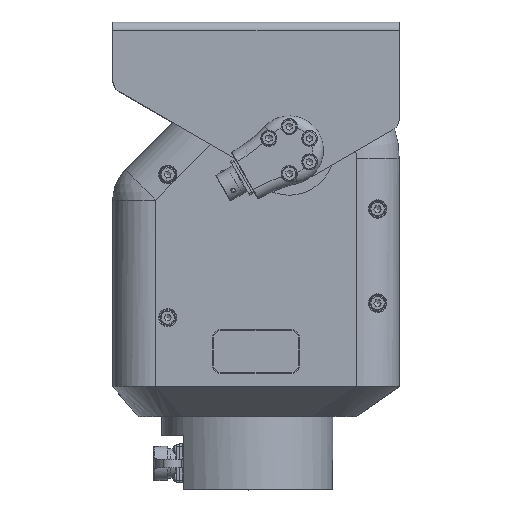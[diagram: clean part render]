
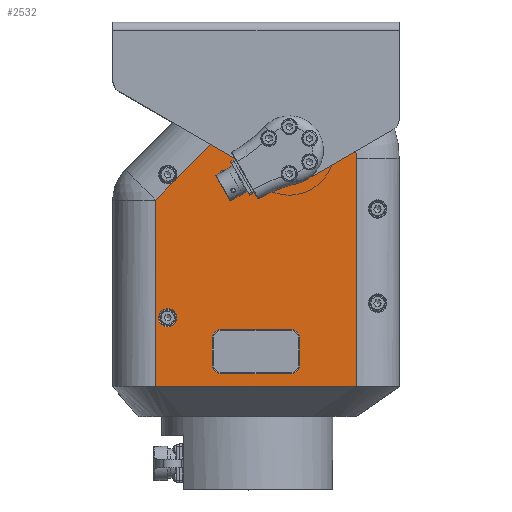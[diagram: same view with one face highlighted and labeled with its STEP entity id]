
A CAD part, top view. The second image highlights one B-rep face of the part: STEP entity #2532.
In plain terms, the highlighted planar face has unit normal (0, 0, 1) as drawn and (0, 1, 0) by its records, which use the part's own axes.
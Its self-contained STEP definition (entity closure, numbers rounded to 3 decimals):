
#2532=ADVANCED_FACE('',(#10967,#10969,#10971,#10973),#10975,.F.);
#10967=FACE_BOUND('',#10968,.T.);
#10968=EDGE_LOOP('',(#19303,#19304,#19305,#19306,#19307,#19308,#19309));
#10969=FACE_BOUND('',#10970,.T.);
#10970=EDGE_LOOP('',(#19310));
#10971=FACE_BOUND('',#10972,.T.);
#10972=EDGE_LOOP('',(#19311));
#10973=FACE_BOUND('',#10974,.T.);
#10974=EDGE_LOOP('',(#19312,#19313,#19314,#19315,#19316,#19317,#19318,#19319));
#10975=PLANE('',#10976);
#10976=AXIS2_PLACEMENT_3D('',#10977,#10978,#10979);
#10977=CARTESIAN_POINT('',(50.583,67.,-69.385));
#10978=DIRECTION('',(0.,-1.,0.));
#10979=DIRECTION('',(0.,0.,-1.));
#19303=ORIENTED_EDGE('',*,*,#23897,.F.);
#19304=ORIENTED_EDGE('',*,*,#23898,.T.);
#19305=ORIENTED_EDGE('',*,*,#23899,.F.);
#19306=ORIENTED_EDGE('',*,*,#23900,.F.);
#19307=ORIENTED_EDGE('',*,*,#23901,.F.);
#19308=ORIENTED_EDGE('',*,*,#23902,.F.);
#19309=ORIENTED_EDGE('',*,*,#23903,.F.);
#19310=ORIENTED_EDGE('',*,*,#23904,.F.);
#19311=ORIENTED_EDGE('',*,*,#23905,.T.);
#19312=ORIENTED_EDGE('',*,*,#23865,.F.);
#19313=ORIENTED_EDGE('',*,*,#23869,.F.);
#19314=ORIENTED_EDGE('',*,*,#23872,.F.);
#19315=ORIENTED_EDGE('',*,*,#23875,.F.);
#19316=ORIENTED_EDGE('',*,*,#23878,.F.);
#19317=ORIENTED_EDGE('',*,*,#23881,.F.);
#19318=ORIENTED_EDGE('',*,*,#23884,.F.);
#19319=ORIENTED_EDGE('',*,*,#23886,.F.);
#23865=EDGE_CURVE('',#26177,#26179,#26180,.T.);
#23869=EDGE_CURVE('',#26185,#26177,#26187,.T.);
#23872=EDGE_CURVE('',#26190,#26185,#26192,.T.);
#23875=EDGE_CURVE('',#26195,#26190,#26197,.T.);
#23878=EDGE_CURVE('',#26200,#26195,#26202,.T.);
#23881=EDGE_CURVE('',#26205,#26200,#26207,.T.);
#23884=EDGE_CURVE('',#26210,#26205,#26212,.T.);
#23886=EDGE_CURVE('',#26179,#26210,#26214,.T.);
#23897=EDGE_CURVE('',#26230,#26231,#26232,.T.);
#23898=EDGE_CURVE('',#26230,#26233,#26234,.T.);
#23899=EDGE_CURVE('',#26235,#26233,#26236,.T.);
#23900=EDGE_CURVE('',#26237,#26235,#26238,.T.);
#23901=EDGE_CURVE('',#26239,#26237,#26240,.T.);
#23902=EDGE_CURVE('',#26241,#26239,#26242,.T.);
#23903=EDGE_CURVE('',#26231,#26241,#26243,.T.);
#23904=EDGE_CURVE('',#26244,#26244,#26245,.T.);
#23905=EDGE_CURVE('',#26246,#26246,#26247,.T.);
#26177=VERTEX_POINT('',#30187);
#26179=VERTEX_POINT('',#30191);
#26180=CIRCLE('',#30192,4.4);
#26185=VERTEX_POINT('',#30205);
#26187=LINE('',#30209,#30210);
#26190=VERTEX_POINT('',#30216);
#26192=CIRCLE('',#30220,4.4);
#26195=VERTEX_POINT('',#30229);
#26197=LINE('',#30233,#30234);
#26200=VERTEX_POINT('',#30240);
#26202=CIRCLE('',#30244,4.4);
#26205=VERTEX_POINT('',#30253);
#26207=LINE('',#30257,#30258);
#26210=VERTEX_POINT('',#30264);
#26212=CIRCLE('',#30268,4.4);
#26214=LINE('',#30276,#30277);
#26230=VERTEX_POINT('',#30316);
#26231=VERTEX_POINT('',#30317);
#26232=LINE('',#30318,#30319);
#26233=VERTEX_POINT('',#30321);
#26234=LINE('',#30322,#30323);
#26235=VERTEX_POINT('',#30325);
#26236=LINE('',#30326,#30327);
#26237=VERTEX_POINT('',#30329);
#26238=CIRCLE('',#30330,27.7);
#26239=VERTEX_POINT('',#30334);
#26240=LINE('',#30335,#30336);
#26241=VERTEX_POINT('',#30338);
#26242=CIRCLE('',#30339,27.7);
#26243=LINE('',#30343,#30344);
#26244=VERTEX_POINT('',#30346);
#26245=CIRCLE('',#30347,4.3);
#26246=VERTEX_POINT('',#30351);
#26247=CIRCLE('',#30352,15.);
#30187=CARTESIAN_POINT('',(65.219,67.,-18.4));
#30191=CARTESIAN_POINT('',(69.619,67.,-22.8));
#30192=AXIS2_PLACEMENT_3D('',#30193,#30194,#30195);
#30193=CARTESIAN_POINT('',(65.219,67.,-22.8));
#30194=DIRECTION('',(0.,1.,0.));
#30195=DIRECTION('',(0.,0.,1.));
#30205=CARTESIAN_POINT('',(33.219,67.,-18.4));
#30209=CARTESIAN_POINT('',(33.219,67.,-18.4));
#30210=VECTOR('',#30211,1.);
#30211=DIRECTION('',(1.,0.,0.));
#30216=CARTESIAN_POINT('',(28.819,67.,-22.8));
#30220=AXIS2_PLACEMENT_3D('',#30221,#30222,#30223);
#30221=CARTESIAN_POINT('',(33.219,67.,-22.8));
#30222=DIRECTION('',(0.,1.,0.));
#30223=DIRECTION('',(-1.,0.,0.));
#30229=CARTESIAN_POINT('',(28.819,67.,-34.8));
#30233=CARTESIAN_POINT('',(28.819,67.,-34.8));
#30234=VECTOR('',#30235,1.);
#30235=DIRECTION('',(0.,0.,1.));
#30240=CARTESIAN_POINT('',(33.219,67.,-39.2));
#30244=AXIS2_PLACEMENT_3D('',#30245,#30246,#30247);
#30245=CARTESIAN_POINT('',(33.219,67.,-34.8));
#30246=DIRECTION('',(0.,1.,0.));
#30247=DIRECTION('',(0.,0.,-1.));
#30253=CARTESIAN_POINT('',(65.219,67.,-39.2));
#30257=CARTESIAN_POINT('',(65.219,67.,-39.2));
#30258=VECTOR('',#30259,1.);
#30259=DIRECTION('',(-1.,0.,0.));
#30264=CARTESIAN_POINT('',(69.619,67.,-34.8));
#30268=AXIS2_PLACEMENT_3D('',#30269,#30270,#30271);
#30269=CARTESIAN_POINT('',(65.219,67.,-34.8));
#30270=DIRECTION('',(0.,1.,0.));
#30271=DIRECTION('',(1.,0.,0.));
#30276=CARTESIAN_POINT('',(69.619,67.,-22.8));
#30277=VECTOR('',#30278,1.);
#30278=DIRECTION('',(0.,0.,-1.));
#30316=CARTESIAN_POINT('',(2.219,67.,-12.5));
#30317=CARTESIAN_POINT('',(2.219,67.,-99.674));
#30318=CARTESIAN_POINT('',(2.219,67.,-12.5));
#30319=VECTOR('',#30320,1.);
#30320=DIRECTION('',(0.,0.,-1.));
#30321=CARTESIAN_POINT('',(96.219,67.,-12.5));
#30322=CARTESIAN_POINT('',(2.219,67.,-12.5));
#30323=VECTOR('',#30324,1.);
#30324=DIRECTION('',(1.,0.,0.));
#30325=CARTESIAN_POINT('',(96.219,67.,-119.2));
#30326=CARTESIAN_POINT('',(96.219,67.,-119.2));
#30327=VECTOR('',#30328,1.);
#30328=DIRECTION('',(0.,0.,1.));
#30329=CARTESIAN_POINT('',(88.106,67.,-138.787));
#30330=AXIS2_PLACEMENT_3D('',#30331,#30332,#30333);
#30331=CARTESIAN_POINT('',(68.519,67.,-119.2));
#30332=DIRECTION('',(0.,-1.,0.));
#30333=DIRECTION('',(0.707,0.,-0.707));
#30334=CARTESIAN_POINT('',(84.306,67.,-142.587));
#30335=CARTESIAN_POINT('',(84.306,67.,-142.587));
#30336=VECTOR('',#30337,1.);
#30337=DIRECTION('',(0.707,0.,0.707));
#30338=CARTESIAN_POINT('',(45.132,67.,-142.587));
#30339=AXIS2_PLACEMENT_3D('',#30340,#30341,#30342);
#30340=CARTESIAN_POINT('',(64.719,67.,-123.));
#30341=DIRECTION('',(0.,-1.,0.));
#30342=DIRECTION('',(-0.707,0.,-0.707));
#30343=CARTESIAN_POINT('',(2.219,67.,-99.674));
#30344=VECTOR('',#30345,1.);
#30345=DIRECTION('',(0.707,0.,-0.707));
#30346=CARTESIAN_POINT('',(12.212,67.,-44.65));
#30347=AXIS2_PLACEMENT_3D('',#30348,#30349,#30350);
#30348=CARTESIAN_POINT('',(7.912,67.,-44.65));
#30349=DIRECTION('',(0.,1.,0.));
#30350=DIRECTION('',(1.,0.,0.));
#30351=CARTESIAN_POINT('',(79.762,67.,-123.));
#30352=AXIS2_PLACEMENT_3D('',#30353,#30354,#30355);
#30353=CARTESIAN_POINT('',(64.762,67.,-123.));
#30354=DIRECTION('',(0.,-1.,0.));
#30355=DIRECTION('',(1.,0.,0.));
